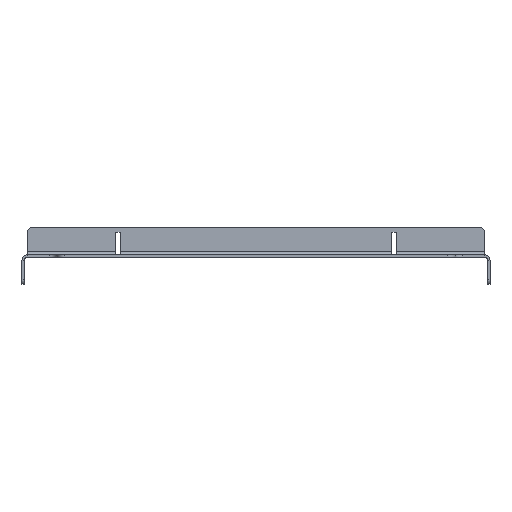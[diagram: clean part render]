
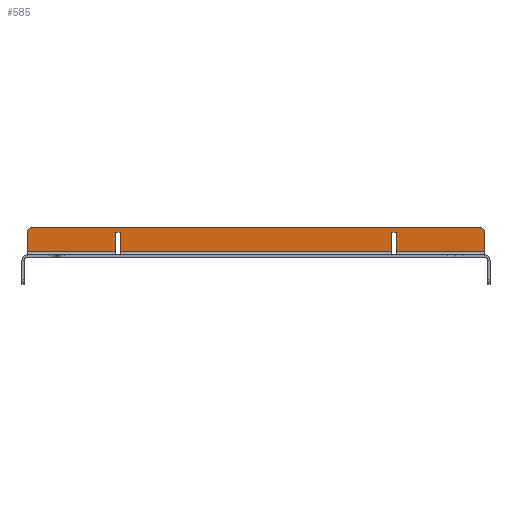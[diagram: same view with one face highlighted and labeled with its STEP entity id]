
A CAD part, front view. The second image highlights one B-rep face of the part: STEP entity #585.
In plain terms, the highlighted planar face has unit normal (0, -1, 0).
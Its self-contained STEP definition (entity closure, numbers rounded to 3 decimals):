
#585=ADVANCED_FACE('',(#4791),#4793,.T.);
#4791=FACE_BOUND('',#4792,.T.);
#4792=EDGE_LOOP('',(#8035,#8036,#8037,#8038,#8039,#8040,#8041,#8042,#8043,#8044,
#8045,#8046,#8047,#8048));
#4793=PLANE('',#4794);
#4794=AXIS2_PLACEMENT_3D('',#4795,#4796,#4797);
#4795=CARTESIAN_POINT('',(0.,751.5,-750.273));
#4796=DIRECTION('',(0.,-1.,0.));
#4797=DIRECTION('',(1.,0.,0.));
#8035=ORIENTED_EDGE('',*,*,#9704,.F.);
#8036=ORIENTED_EDGE('',*,*,#9705,.T.);
#8037=ORIENTED_EDGE('',*,*,#9706,.F.);
#8038=ORIENTED_EDGE('',*,*,#9707,.T.);
#8039=ORIENTED_EDGE('',*,*,#9683,.F.);
#8040=ORIENTED_EDGE('',*,*,#9708,.T.);
#8041=ORIENTED_EDGE('',*,*,#9709,.T.);
#8042=ORIENTED_EDGE('',*,*,#9710,.T.);
#8043=ORIENTED_EDGE('',*,*,#9680,.F.);
#8044=ORIENTED_EDGE('',*,*,#9711,.T.);
#8045=ORIENTED_EDGE('',*,*,#9712,.T.);
#8046=ORIENTED_EDGE('',*,*,#9713,.T.);
#8047=ORIENTED_EDGE('',*,*,#9678,.F.);
#8048=ORIENTED_EDGE('',*,*,#9714,.T.);
#9678=EDGE_CURVE('',#12282,#12280,#12284,.T.);
#9680=EDGE_CURVE('',#12285,#12287,#12288,.T.);
#9683=EDGE_CURVE('',#12290,#12292,#12293,.T.);
#9704=EDGE_CURVE('',#12322,#12323,#12324,.F.);
#9705=EDGE_CURVE('',#12322,#12325,#12326,.T.);
#9706=EDGE_CURVE('',#12327,#12325,#12328,.F.);
#9707=EDGE_CURVE('',#12327,#12292,#12329,.T.);
#9708=EDGE_CURVE('',#12290,#12330,#12331,.F.);
#9709=EDGE_CURVE('',#12330,#12332,#12333,.F.);
#9710=EDGE_CURVE('',#12332,#12287,#12334,.F.);
#9711=EDGE_CURVE('',#12285,#12335,#12336,.F.);
#9712=EDGE_CURVE('',#12335,#12337,#12338,.F.);
#9713=EDGE_CURVE('',#12337,#12280,#12339,.F.);
#9714=EDGE_CURVE('',#12282,#12323,#12340,.T.);
#12280=VERTEX_POINT('',#18358);
#12282=VERTEX_POINT('',#18363);
#12284=LINE('',#18368,#18369);
#12285=VERTEX_POINT('',#18371);
#12287=VERTEX_POINT('',#18376);
#12288=LINE('',#18377,#18378);
#12290=VERTEX_POINT('',#18384);
#12292=VERTEX_POINT('',#18389);
#12293=LINE('',#18390,#18391);
#12322=VERTEX_POINT('',#18464);
#12323=VERTEX_POINT('',#18465);
#12324=CIRCLE('',#18466,3.);
#12325=VERTEX_POINT('',#18470);
#12326=LINE('',#18471,#18472);
#12327=VERTEX_POINT('',#18474);
#12328=CIRCLE('',#18475,3.);
#12329=LINE('',#18479,#18480);
#12330=VERTEX_POINT('',#18482);
#12331=LINE('',#18483,#18484);
#12332=VERTEX_POINT('',#18486);
#12333=LINE('',#18487,#18488);
#12334=LINE('',#18490,#18491);
#12335=VERTEX_POINT('',#18493);
#12336=LINE('',#18494,#18495);
#12337=VERTEX_POINT('',#18497);
#12338=LINE('',#18498,#18499);
#12339=LINE('',#18501,#18502);
#12340=LINE('',#18504,#18505);
#18358=CARTESIAN_POINT('',(240.,751.5,3.5));
#18363=CARTESIAN_POINT('',(296.5,751.5,3.5));
#18368=CARTESIAN_POINT('',(296.5,751.5,3.5));
#18369=VECTOR('',#18370,1.);
#18370=DIRECTION('',(-1.,0.,0.));
#18371=CARTESIAN_POINT('',(237.,751.5,3.5));
#18376=CARTESIAN_POINT('',(63.,751.5,3.5));
#18377=CARTESIAN_POINT('',(237.,751.5,3.5));
#18378=VECTOR('',#18379,1.);
#18379=DIRECTION('',(-1.,0.,0.));
#18384=CARTESIAN_POINT('',(60.,751.5,3.5));
#18389=CARTESIAN_POINT('',(3.5,751.5,3.5));
#18390=CARTESIAN_POINT('',(60.,751.5,3.5));
#18391=VECTOR('',#18392,1.);
#18392=DIRECTION('',(-1.,0.,0.));
#18464=CARTESIAN_POINT('',(293.5,751.5,19.));
#18465=CARTESIAN_POINT('',(296.5,751.5,16.));
#18466=AXIS2_PLACEMENT_3D('',#18467,#18468,#18469);
#18467=CARTESIAN_POINT('',(293.5,751.5,16.));
#18468=DIRECTION('',(0.,-1.,0.));
#18469=DIRECTION('',(1.,0.,0.));
#18470=CARTESIAN_POINT('',(6.5,751.5,19.));
#18471=CARTESIAN_POINT('',(293.5,751.5,19.));
#18472=VECTOR('',#18473,1.);
#18473=DIRECTION('',(-1.,0.,0.));
#18474=CARTESIAN_POINT('',(3.5,751.5,16.));
#18475=AXIS2_PLACEMENT_3D('',#18476,#18477,#18478);
#18476=CARTESIAN_POINT('',(6.5,751.5,16.));
#18477=DIRECTION('',(0.,-1.,0.));
#18478=DIRECTION('',(0.,0.,1.));
#18479=CARTESIAN_POINT('',(3.5,751.5,16.));
#18480=VECTOR('',#18481,1.);
#18481=DIRECTION('',(0.,0.,-1.));
#18482=CARTESIAN_POINT('',(60.,751.5,16.));
#18483=CARTESIAN_POINT('',(60.,751.5,16.));
#18484=VECTOR('',#18485,1.);
#18485=DIRECTION('',(0.,0.,-1.));
#18486=CARTESIAN_POINT('',(63.,751.5,16.));
#18487=CARTESIAN_POINT('',(63.,751.5,16.));
#18488=VECTOR('',#18489,1.);
#18489=DIRECTION('',(-1.,0.,0.));
#18490=CARTESIAN_POINT('',(63.,751.5,3.5));
#18491=VECTOR('',#18492,1.);
#18492=DIRECTION('',(0.,0.,1.));
#18493=CARTESIAN_POINT('',(237.,751.5,16.));
#18494=CARTESIAN_POINT('',(237.,751.5,16.));
#18495=VECTOR('',#18496,1.);
#18496=DIRECTION('',(0.,0.,-1.));
#18497=CARTESIAN_POINT('',(240.,751.5,16.));
#18498=CARTESIAN_POINT('',(240.,751.5,16.));
#18499=VECTOR('',#18500,1.);
#18500=DIRECTION('',(-1.,0.,0.));
#18501=CARTESIAN_POINT('',(240.,751.5,3.5));
#18502=VECTOR('',#18503,1.);
#18503=DIRECTION('',(0.,0.,1.));
#18504=CARTESIAN_POINT('',(296.5,751.5,3.5));
#18505=VECTOR('',#18506,1.);
#18506=DIRECTION('',(0.,0.,1.));
